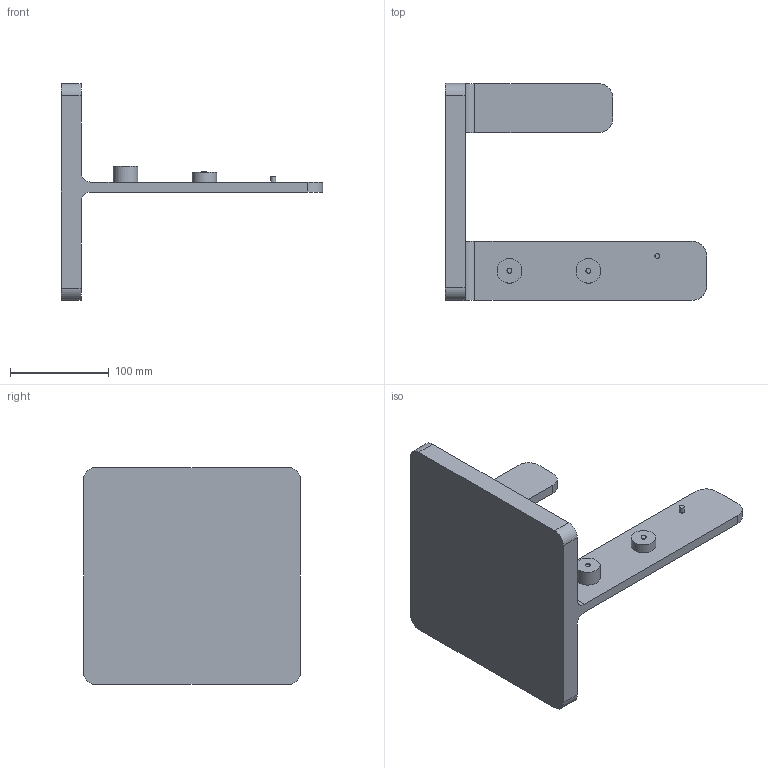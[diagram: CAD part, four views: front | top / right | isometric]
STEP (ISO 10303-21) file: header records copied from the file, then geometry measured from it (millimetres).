
FILE_DESCRIPTION(/* description */ (''),/* implementation_level */ '2;1');
FILE_NAME(/* name */ 'base.step',/* time_stamp */ '2026-11-10T17:33:57+07:00',/* author */ (''),/* organization */ (''),/* preprocessor_version */ 'ST-DEVELOPER v20.2',/* originating_system */ 'Autodesk Translation Framework v15.17.0.0',/* authorisation */ '');
FILE_SCHEMA (('AUTOMOTIVE_DESIGN { 1 0 10303 214 3 1 1 }'));
Length unit declared in the file: millimetre
Products named in the file (1): 2026-11-08-14-31-23-376
Bounding box: 265 x 220 x 220 mm (x, y, z)
Volume: 1202864.9 mm3; surface area: 167018.4 mm2
Topology: 1 solids, 1 shells, 279 faces, 762 edges, 508 vertices
Faces by surface type: plane 134, bspline 128, cylinder 17
Full cylindrical faces by diameter (mm): 5 x3, 25 x2
Entity records: 8966 total; most frequent: CARTESIAN_POINT 2702, ORIENTED_EDGE 1524, DIRECTION 844, EDGE_CURVE 762, VERTEX_POINT 508, LINE 472, VECTOR 472, EDGE_LOOP 302
